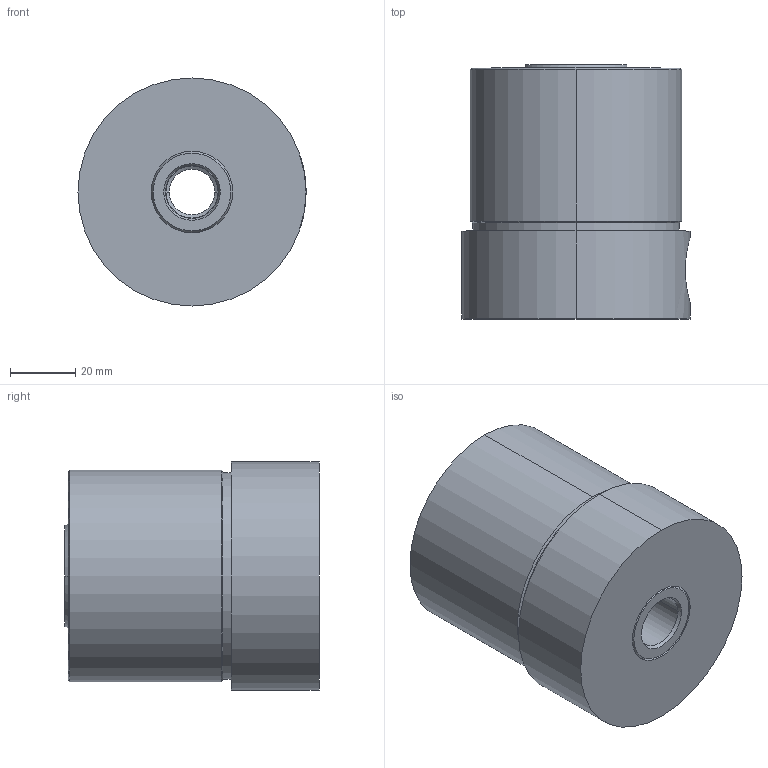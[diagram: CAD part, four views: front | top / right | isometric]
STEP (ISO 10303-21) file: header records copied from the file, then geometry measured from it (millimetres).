
FILE_DESCRIPTION (( 'STEP AP203' ), '1' );
FILE_NAME ('GERMA_Hohlkolbenzylinder_82-53-2-1.STEP', '2016-01-04T09:24:08', ( '' ), ( '' ), 'SwSTEP 2.0', 'SolidWorks 2015', '' );
FILE_SCHEMA (( 'CONFIG_CONTROL_DESIGN' ));
Length unit declared in the file: millimetre
Products named in the file (3): Gehaeuse 82-53-2_Geh„use; Kolben 82-53-X-1_Kolben; GERMA_Hohlkolbenzylinder_82-53-2-1
Assembly tree (2 placements, depth 2):
  GERMA_Hohlkolbenzylinder_82-53-2-1
    Gehaeuse 82-53-2_Geh„use
    Kolben 82-53-X-1_Kolben
Bounding box: 70 x 78 x 70 mm (x, y, z)
Volume: 239169.2 mm3; surface area: 50232 mm2
Topology: 2 solids, 2 shells, 72 faces, 148 edges, 90 vertices
Faces by surface type: cylinder 34, cone 22, plane 16
Entity records: 2287 total; most frequent: CARTESIAN_POINT 399, DIRECTION 382, ORIENTED_EDGE 288, AXIS2_PLACEMENT_3D 163, EDGE_CURVE 144, EDGE_LOOP 90, VERTEX_POINT 90, CIRCLE 86
